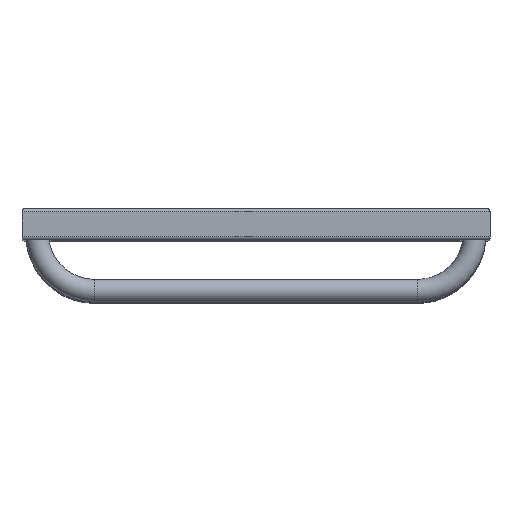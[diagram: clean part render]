
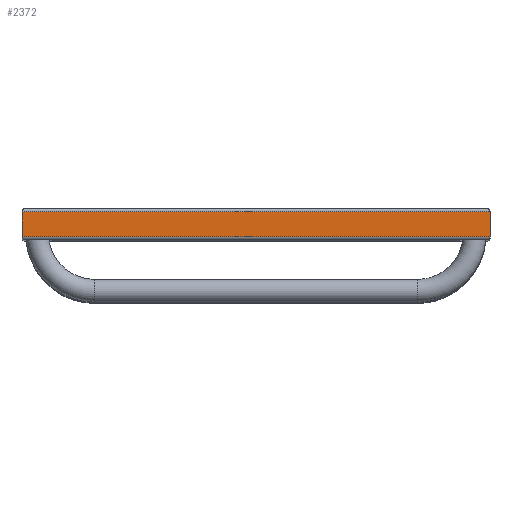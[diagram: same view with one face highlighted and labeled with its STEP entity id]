
A CAD part, top view. The second image highlights one B-rep face of the part: STEP entity #2372.
In plain terms, the highlighted planar face has unit normal (0, 0, 1).
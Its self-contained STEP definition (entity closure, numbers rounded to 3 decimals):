
#243=CARTESIAN_POINT('',(225.0,12.,785.0));
#244=VERTEX_POINT('',#243);
#251=CARTESIAN_POINT('',(225.0,-12.,785.0));
#252=VERTEX_POINT('',#251);
#253=CARTESIAN_POINT('',(225.0,12.,785.0));
#254=DIRECTION('',(0.0,-1.0,0.0));
#255=VECTOR('',#254,24.);
#256=LINE('',#253,#255);
#257=EDGE_CURVE('',#244,#252,#256,.T.);
#2223=CARTESIAN_POINT('',(-225.0,12.,785.0));
#2224=VERTEX_POINT('',#2223);
#2225=CARTESIAN_POINT('',(-225.0,12.,785.0));
#2226=DIRECTION('',(1.0,0.0,0.0));
#2227=VECTOR('',#2226,450.0);
#2228=LINE('',#2225,#2227);
#2229=EDGE_CURVE('',#2224,#244,#2228,.T.);
#2267=CARTESIAN_POINT('',(-225.0,-12.,785.0));
#2268=VERTEX_POINT('',#2267);
#2275=CARTESIAN_POINT('',(-225.0,-12.,785.0));
#2276=DIRECTION('',(0.0,1.0,0.0));
#2277=VECTOR('',#2276,24.0);
#2278=LINE('',#2275,#2277);
#2279=EDGE_CURVE('',#2268,#2224,#2278,.T.);
#2331=CARTESIAN_POINT('',(225.0,-12.,785.0));
#2332=DIRECTION('',(-1.0,0.0,0.0));
#2333=VECTOR('',#2332,450.0);
#2334=LINE('',#2331,#2333);
#2335=EDGE_CURVE('',#252,#2268,#2334,.T.);
#2361=CARTESIAN_POINT('',(210.0,0.,785.0));
#2362=DIRECTION('',(0.0,0.0,1.0));
#2363=DIRECTION('',(1.0,0.0,0.0));
#2364=AXIS2_PLACEMENT_3D('',#2361,#2362,#2363);
#2365=PLANE('',#2364);
#2366=ORIENTED_EDGE('',*,*,#2229,.F.);
#2367=ORIENTED_EDGE('',*,*,#2279,.F.);
#2368=ORIENTED_EDGE('',*,*,#2335,.F.);
#2369=ORIENTED_EDGE('',*,*,#257,.F.);
#2370=EDGE_LOOP('',(#2366,#2367,#2368,#2369));
#2371=FACE_OUTER_BOUND('',#2370,.T.);
#2372=ADVANCED_FACE('',(#2371),#2365,.T.);
